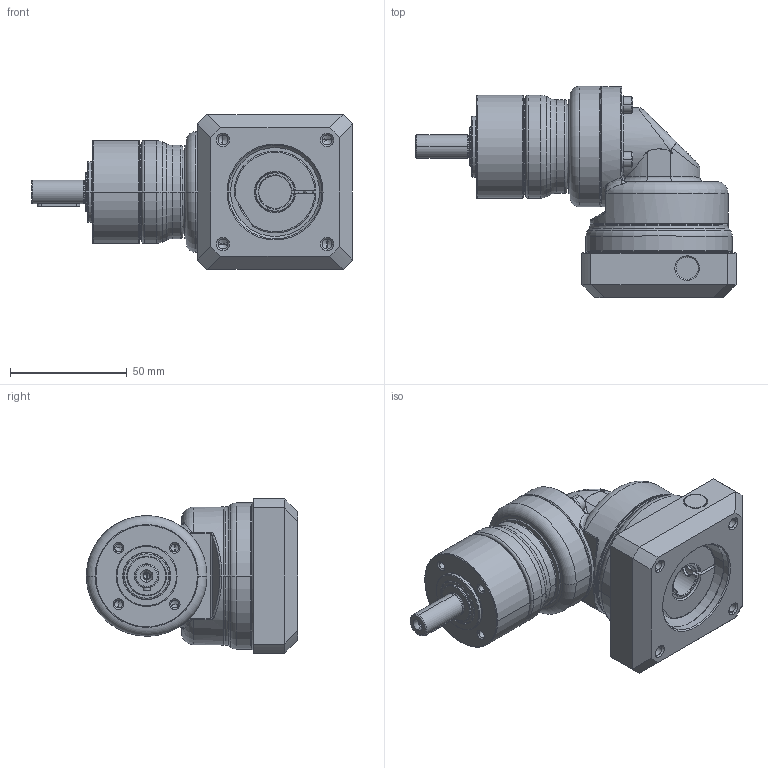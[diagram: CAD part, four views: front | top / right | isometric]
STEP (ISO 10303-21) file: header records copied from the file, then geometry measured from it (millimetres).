
FILE_DESCRIPTION((''),'2;1');
FILE_NAME('PG2R-040_1ST_14-P0411300101_ASM','2016-04-20T',('d01943'),(''),'PRO/ENGINEER BY PARAMETRIC TECHNOLOGY CORPORATION, 2008410','PRO/ENGINEER BY PARAMETRIC TECHNOLOGY CORPORATION, 2008410','');
FILE_SCHEMA(('CONFIG_CONTROL_DESIGN'));
Length unit declared in the file: millimetre
Products named in the file (12): P1325100001; P0250100001; P0350101103; P1349100001; P1017100001; P0713102001; P0503300005; P1350100201; P0411300101; P1702300001; 2111B104015; PG2R-040_1ST_14-P0411300101_ASM
Assembly tree (14 placements, depth 2):
  PG2R-040_1ST_14-P0411300101_ASM
    P1325100001
    P0250100001
    P0350101103
    P1349100001
    P1017100001
    P0713102001
    P0503300005
    P1350100201
    P0411300101
    P1702300001
    2111B104015  x4
Bounding box: 137 x 90.25 x 66 mm (x, y, z)
Volume: 195353.3 mm3; surface area: 77351.6 mm2
Topology: 14 solids, 15 shells, 732 faces, 1604 edges, 925 vertices
Faces by surface type: cylinder 222, cone 212, plane 161, torus 102, bspline 35
Entity records: 23019 total; most frequent: CARTESIAN_POINT 8907, DIRECTION 3137, ORIENTED_EDGE 2720, EDGE_CURVE 1360, AXIS2_PLACEMENT_3D 1326, VERTEX_POINT 805, EDGE_LOOP 715, CIRCLE 702
